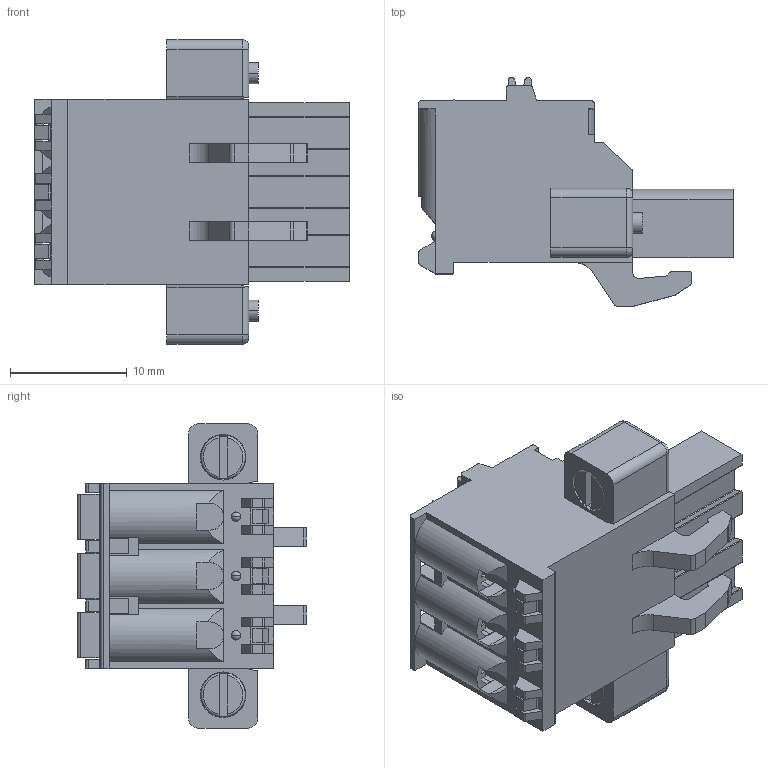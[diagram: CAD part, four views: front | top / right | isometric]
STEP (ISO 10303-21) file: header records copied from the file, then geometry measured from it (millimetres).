
FILE_DESCRIPTION((''),'2;1');
FILE_NAME('3PIN_SW0001','2019-05-28T',('zhenbing.lai'),(''),'CREO PARAMETRIC BY PTC INC, 2016260','CREO PARAMETRIC BY PTC INC, 2016260','');
FILE_SCHEMA(('CONFIG_CONTROL_DESIGN'));
Length unit declared in the file: millimetre
Products named in the file (1): 3PIN_SW0001
Bounding box: 26.9 x 19.58 x 26.02 mm (x, y, z)
Volume: 4403.3 mm3; surface area: 3364.1 mm2
Topology: 1 solids, 1 shells, 614 faces, 1813 edges, 1201 vertices
Faces by surface type: plane 361, cylinder 192, bspline 28, cone 19, torus 8, sphere 6
Entity records: 24121 total; most frequent: CARTESIAN_POINT 7750, ORIENTED_EDGE 3614, DIRECTION 3184, EDGE_CURVE 1807, VERTEX_POINT 1201, VECTOR 1160, LINE 1160, AXIS2_PLACEMENT_3D 1012
